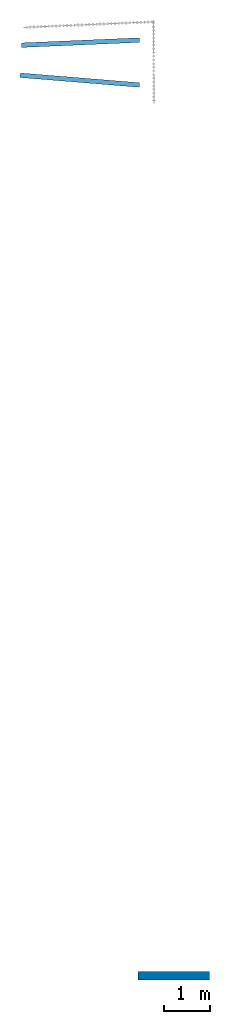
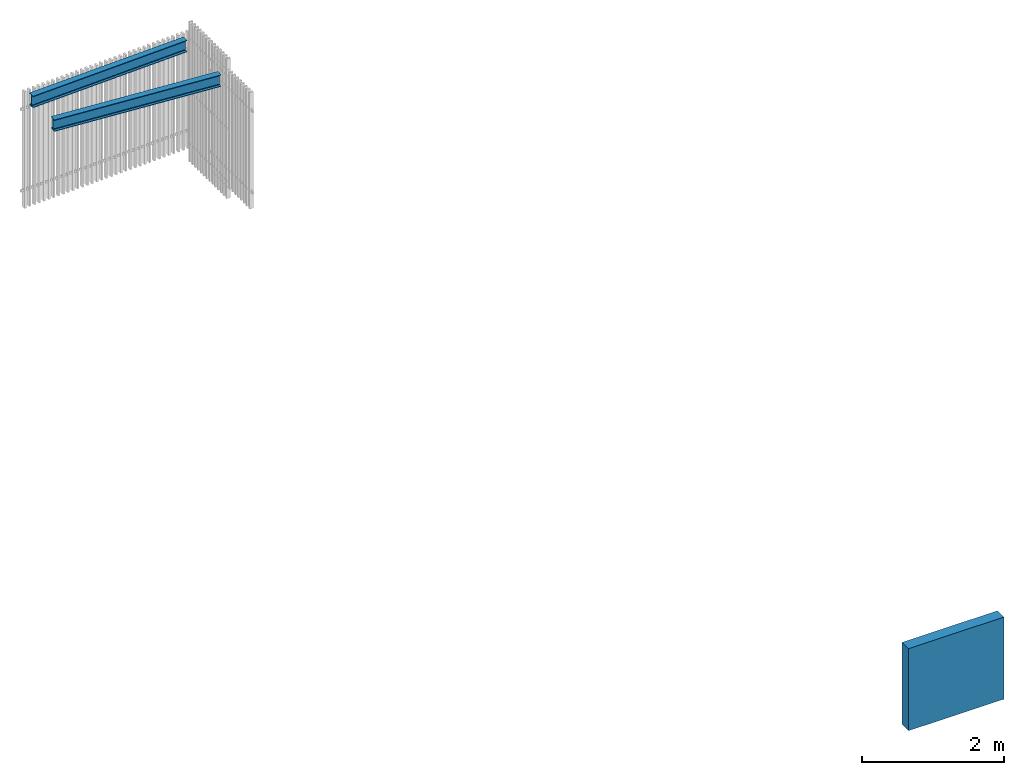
# One storey, part 1 of 2: 2 beams, 1 wall.
"""IFC2X3 building model written with IfcOpenShell, lengths in metres."""

from ifc_helpers import new_model, entity, si_unit, converted_unit, derived_unit, direction, frame, frame_2d, origin, place, context, subcontext, project, spatial, rectangle, i_section, extrude, material, layer, layer_set, layer_usage, type_object, element, save


model = new_model("IFC2X3")

# Units and contexts
model_context = context("Model", 3, precision=1e-05, world=origin(), true_north=direction((6.123031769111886e-17, 1.0)))
body_context = subcontext(model_context, "Body", "Model", "MODEL_VIEW")
ifc_project = project(units=[si_unit("LENGTHUNIT", "METRE"), si_unit("AREAUNIT", "SQUARE_METRE"), converted_unit("PLANEANGLEUNIT", "DEGREE", entity("IfcPlaneAngleMeasure", 0.017453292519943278), si_unit("PLANEANGLEUNIT", "RADIAN"), dimensions=[0, 0, 0, 0, 0, 0, 0]), derived_unit("THERMALTRANSMITTANCEUNIT", [(si_unit("MASSUNIT", "GRAM", prefix="KILO"), 1), (si_unit("THERMODYNAMICTEMPERATUREUNIT", "KELVIN"), -1), (si_unit("TIMEUNIT", "SECOND"), -3)])], contexts=[model_context])

# Site, building, storey
site_placement = place(None, origin())
site = spatial("IfcSite", under=ifc_project, at=site_placement, Name="Default", CompositionType="ELEMENT")
building_placement = place(site_placement, origin())
building = spatial("IfcBuilding", under=site, at=building_placement, CompositionType="ELEMENT")
storey_placement = place(building_placement, frame((0.0, 0.0, 4.580000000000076)))
storey = spatial("IfcBuildingStorey", under=building, at=storey_placement, Name="01_N1 CAF", CompositionType="ELEMENT", Elevation=4.580000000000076)

# Beams
ifc_material_1 = material(Name="Acier structurel - S235")
beam_type = type_object("IfcBeamType", Name="IPE:IPE200", PredefinedType="BEAM")
beam_1_placement = place(storey_placement, frame((18.789113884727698, 148.1025788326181, -1.9045973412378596), z_axis=(0.001307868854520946, 5.65725284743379e-05, 0.9999991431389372), x_axis=(0.9990649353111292, 0.04321505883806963, -0.001309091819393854)))
element("IfcBeam", 1, at=beam_1_placement, inside=storey, type_object=beam_type, material=ifc_material_1, Name="IPE:IPE200", ObjectType="IPE:IPE200", context=body_context, shape_type="SweptSolid", body=[
    extrude(i_section(OverallWidth=0.09999999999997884, OverallDepth=0.2000000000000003, WebThickness=0.005600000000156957, FlangeThickness=0.00850000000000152, FilletRadius=0.012000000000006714, at=frame_2d((5.412337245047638e-16, -1.7354173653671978e-14), x_axis=(0.0, 1.0))), frame((0.010329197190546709, 0.0, -0.10000000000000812), z_axis=(1.0, 0.0, 0.0), x_axis=(0.0, 0.0, -1.0)), (0.0, 0.0, 1.0), 2.565500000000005),
])
beam_2_placement = place(storey_placement, frame((18.71650469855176, 147.45555098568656, -1.9045973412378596), z_axis=(0.0012686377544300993, -0.00010385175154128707, 0.9999991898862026), x_axis=(0.9966653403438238, -0.08158786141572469, -0.0012728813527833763)))
element("IfcBeam", 2, at=beam_2_placement, inside=storey, type_object=beam_type, material=ifc_material_1, Name="IPE:IPE200", ObjectType="IPE:IPE200", context=body_context, shape_type="SweptSolid", body=[
    extrude(i_section(OverallWidth=0.09999999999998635, OverallDepth=0.19999999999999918, WebThickness=0.005599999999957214, FlangeThickness=0.008500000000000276, FilletRadius=0.012000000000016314, at=frame_2d((8.118505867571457e-16, -1.7354173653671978e-14), x_axis=(0.0, 1.0))), frame((0.056620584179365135, 0.0, -0.10000000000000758), z_axis=(1.0, 0.0, 0.0), x_axis=(0.0, 0.0, -1.0)), (0.0, 0.0, 1.0), 2.594128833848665),
])

# Wall
ifc_material_2 = material(Name="STR - Beton Mur")
ifc_layer = layer(ifc_material_2, 0.18)
ifc_layer_set = layer_set([ifc_layer], Name="Mur de base:M_Int_Beton_180mm")
ifc_layer_usage = layer_usage(ifc_layer_set, "AXIS2", "NEGATIVE", 0.09)
wall_type = type_object("IfcWallType", Name="Mur de base:M_Int_Beton_180mm", PredefinedType="STANDARD", material=ifc_layer_set)
wall_placement = place(storey_placement, frame((22.87912785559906, 127.92075151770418, -1.4106153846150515), z_axis=(0.0, 0.0, 1.0), x_axis=(-1.0, 0.0, 0.0)))
element("IfcWallStandardCase", 3, at=wall_placement, inside=storey, type_object=wall_type, material=ifc_layer_usage, Name="Mur de base:M_Int_Beton_180mm", ObjectType="Mur de base:M_Int_Beton_180mm", context=body_context, shape_type="SweptSolid", body=[
    extrude(rectangle(XDim=1.5499999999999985, YDim=0.17999999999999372, at=frame_2d((0.7749999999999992, 0.0), x_axis=(-1.0, 0.0))), origin(), (0.0, 0.0, 1.0), 1.4086153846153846),
])

save(model, "model.ifc")
